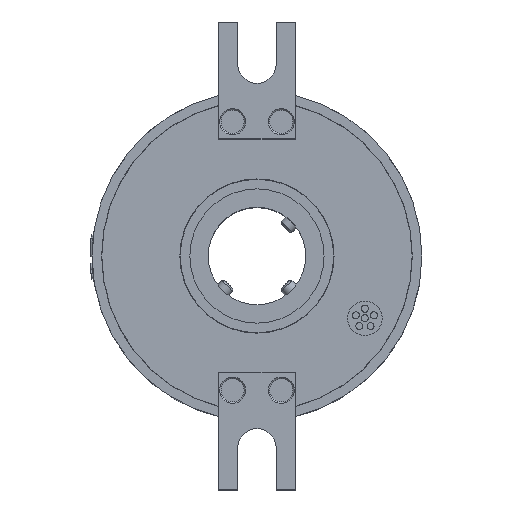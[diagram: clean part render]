
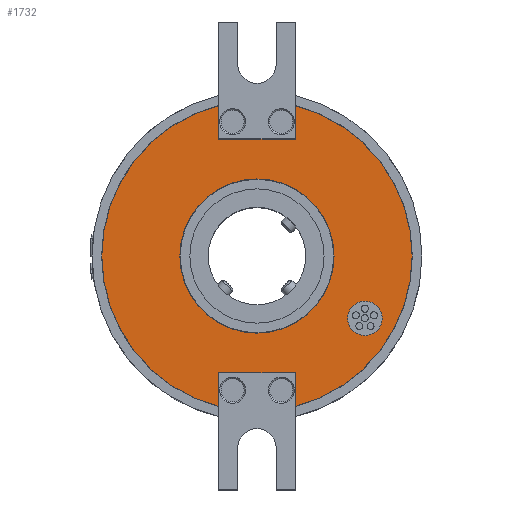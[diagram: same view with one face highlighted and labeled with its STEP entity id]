
A CAD part, top view. The second image highlights one B-rep face of the part: STEP entity #1732.
In plain terms, the highlighted planar face has unit normal (0, 0, 1).
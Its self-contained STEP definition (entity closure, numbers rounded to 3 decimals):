
#222=FACE_BOUND('',#3790,.T.);
#223=FACE_BOUND('',#3791,.T.);
#224=FACE_BOUND('',#3792,.T.);
#1066=CIRCLE('',#16322,4.5);
#1067=CIRCLE('',#16323,40.45);
#1068=CIRCLE('',#16324,40.45);
#1069=CIRCLE('',#16325,20.1);
#1732=ADVANCED_FACE('',(#222,#223,#224),#2283,.T.);
#2283=PLANE('',#16326);
#3790=EDGE_LOOP('',(#8023));
#3791=EDGE_LOOP('',(#8024,#8025,#8026,#8027,#8028,#8029,#8030,#8031));
#3792=EDGE_LOOP('',(#8032));
#4383=LINE('',#30824,#5003);
#4384=LINE('',#30827,#5004);
#4385=LINE('',#30829,#5005);
#4386=LINE('',#30833,#5006);
#4387=LINE('',#30835,#5007);
#4388=LINE('',#30837,#5008);
#5003=VECTOR('',#17887,1.);
#5004=VECTOR('',#17888,1.);
#5005=VECTOR('',#17889,1.);
#5006=VECTOR('',#17892,1.);
#5007=VECTOR('',#17893,1.);
#5008=VECTOR('',#17894,1.);
#8023=ORIENTED_EDGE('',*,*,#13116,.T.);
#8024=ORIENTED_EDGE('',*,*,#13117,.F.);
#8025=ORIENTED_EDGE('',*,*,#13118,.F.);
#8026=ORIENTED_EDGE('',*,*,#13119,.F.);
#8027=ORIENTED_EDGE('',*,*,#13120,.F.);
#8028=ORIENTED_EDGE('',*,*,#13121,.F.);
#8029=ORIENTED_EDGE('',*,*,#13122,.F.);
#8030=ORIENTED_EDGE('',*,*,#13123,.F.);
#8031=ORIENTED_EDGE('',*,*,#13124,.F.);
#8032=ORIENTED_EDGE('',*,*,#13125,.F.);
#10990=VERTEX_POINT('',#30823);
#10991=VERTEX_POINT('',#30825);
#10992=VERTEX_POINT('',#30826);
#10993=VERTEX_POINT('',#30828);
#10994=VERTEX_POINT('',#30830);
#10995=VERTEX_POINT('',#30832);
#10996=VERTEX_POINT('',#30834);
#10997=VERTEX_POINT('',#30836);
#10998=VERTEX_POINT('',#30838);
#10999=VERTEX_POINT('',#30841);
#13116=EDGE_CURVE('',#10990,#10990,#1066,.T.);
#13117=EDGE_CURVE('',#10991,#10992,#4383,.T.);
#13118=EDGE_CURVE('',#10993,#10991,#4384,.T.);
#13119=EDGE_CURVE('',#10994,#10993,#4385,.T.);
#13120=EDGE_CURVE('',#10995,#10994,#1067,.T.);
#13121=EDGE_CURVE('',#10996,#10995,#4386,.T.);
#13122=EDGE_CURVE('',#10997,#10996,#4387,.T.);
#13123=EDGE_CURVE('',#10998,#10997,#4388,.T.);
#13124=EDGE_CURVE('',#10992,#10998,#1068,.T.);
#13125=EDGE_CURVE('',#10999,#10999,#1069,.T.);
#16322=AXIS2_PLACEMENT_3D('',#30822,#17885,#17886);
#16323=AXIS2_PLACEMENT_3D('',#30831,#17890,#17891);
#16324=AXIS2_PLACEMENT_3D('',#30839,#17895,#17896);
#16325=AXIS2_PLACEMENT_3D('',#30840,#17897,#17898);
#16326=AXIS2_PLACEMENT_3D('',#30842,#17899,#17900);
#17885=DIRECTION('',(0.,0.,-1.));
#17886=DIRECTION('',(0.866,-0.5,0.));
#17887=DIRECTION('',(0.,1.,0.));
#17888=DIRECTION('',(1.,0.,0.));
#17889=DIRECTION('',(0.,-1.,0.));
#17890=DIRECTION('',(0.,0.,-1.));
#17891=DIRECTION('',(1.,0.,0.));
#17892=DIRECTION('',(0.,-1.,0.));
#17893=DIRECTION('',(-1.,0.,0.));
#17894=DIRECTION('',(0.,1.,0.));
#17895=DIRECTION('',(0.,0.,-1.));
#17896=DIRECTION('',(1.,0.,0.));
#17897=DIRECTION('',(0.,0.,1.));
#17898=DIRECTION('',(1.,0.,0.));
#17899=DIRECTION('',(0.,0.,1.));
#17900=DIRECTION('',(1.,0.,0.));
#30822=CARTESIAN_POINT('',(28.146,-16.25,58.5));
#30823=CARTESIAN_POINT('',(32.043,-18.5,58.5));
#30824=CARTESIAN_POINT('',(10.,45.75,58.5));
#30825=CARTESIAN_POINT('',(10.,30.5,58.5));
#30826=CARTESIAN_POINT('',(10.,39.194,58.5));
#30827=CARTESIAN_POINT('',(0.,30.5,58.5));
#30828=CARTESIAN_POINT('',(-10.,30.5,58.5));
#30829=CARTESIAN_POINT('',(-10.,45.75,58.5));
#30830=CARTESIAN_POINT('',(-10.,39.194,58.5));
#30831=CARTESIAN_POINT('',(0.,0.,58.5));
#30832=CARTESIAN_POINT('',(-10.,-39.194,58.5));
#30833=CARTESIAN_POINT('',(-10.,-45.75,58.5));
#30834=CARTESIAN_POINT('',(-10.,-30.5,58.5));
#30835=CARTESIAN_POINT('',(0.,-30.5,58.5));
#30836=CARTESIAN_POINT('',(10.,-30.5,58.5));
#30837=CARTESIAN_POINT('',(10.,-45.75,58.5));
#30838=CARTESIAN_POINT('',(10.,-39.194,58.5));
#30839=CARTESIAN_POINT('',(0.,0.,58.5));
#30840=CARTESIAN_POINT('',(0.,0.,58.5));
#30841=CARTESIAN_POINT('',(20.1,0.,58.5));
#30842=CARTESIAN_POINT('',(0.,0.,58.5));
